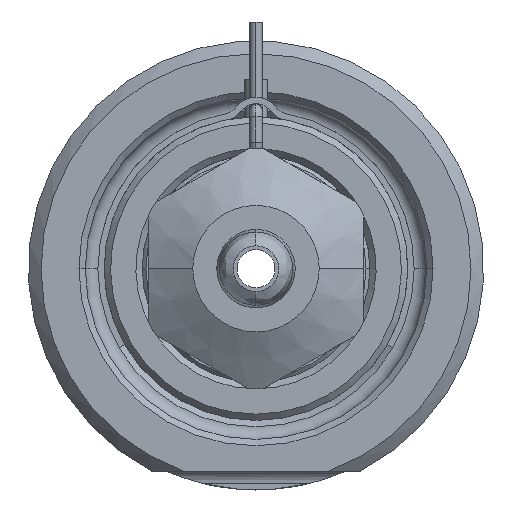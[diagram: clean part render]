
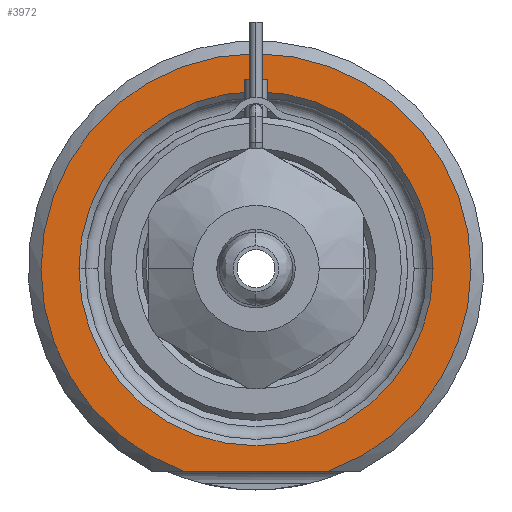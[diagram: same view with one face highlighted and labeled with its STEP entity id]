
A CAD part, front view. The second image highlights one B-rep face of the part: STEP entity #3972.
In plain terms, the highlighted planar face has unit normal (0, -1, 0).
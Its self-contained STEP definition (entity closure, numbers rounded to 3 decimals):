
#640=CARTESIAN_POINT('',(0.,0.,0.));
#641=DIRECTION('',(0.,-1.,0.));
#642=DIRECTION('',(0.338,0.,-0.941));
#643=AXIS2_PLACEMENT_3D('',#640,#641,#642);
#664=DIRECTION('',(1.,0.,0.));
#665=VECTOR('',#664,11.489);
#666=CARTESIAN_POINT('',(-5.745,0.,-16.));
#667=LINE('',#666,#665);
#668=CARTESIAN_POINT('',(0.,0.,0.));
#669=DIRECTION('',(0.,1.,0.));
#670=DIRECTION('',(-1.,0.,0.));
#671=AXIS2_PLACEMENT_3D('',#668,#669,#670);
#673=CARTESIAN_POINT('',(0.,0.,0.));
#674=DIRECTION('',(0.,1.,0.));
#675=DIRECTION('',(1.,0.,0.));
#676=AXIS2_PLACEMENT_3D('',#673,#674,#675);
#2467=CARTESIAN_POINT('',(-14.,0.,0.));
#2468=CARTESIAN_POINT('',(14.,0.,0.));
#2469=VERTEX_POINT('',#2467);
#2470=VERTEX_POINT('',#2468);
#2507=CARTESIAN_POINT('',(-5.745,0.,-16.));
#2508=CARTESIAN_POINT('',(5.745,0.,-16.));
#2509=VERTEX_POINT('',#2507);
#2510=VERTEX_POINT('',#2508);
#3957=CARTESIAN_POINT('',(0.,0.,0.));
#3958=DIRECTION('',(0.,-1.,0.));
#3959=DIRECTION('',(1.,0.,0.));
#3960=AXIS2_PLACEMENT_3D('',#3957,#3958,#3959);
#3961=PLANE('',#3960);
#3962=ORIENTED_EDGE('',*,*,#3889,.F.);
#3963=ORIENTED_EDGE('',*,*,#3949,.F.);
#3964=EDGE_LOOP('',(#3962,#3963));
#3965=FACE_OUTER_BOUND('',#3964,.F.);
#3967=ORIENTED_EDGE('',*,*,#3966,.F.);
#3969=ORIENTED_EDGE('',*,*,#3968,.F.);
#3970=EDGE_LOOP('',(#3967,#3969));
#3971=FACE_BOUND('',#3970,.F.);
#3972=ADVANCED_FACE('',(#3965,#3971),#3961,.T.);
#644=CIRCLE('',#643,17.);
#672=CIRCLE('',#671,14.);
#677=CIRCLE('',#676,14.);
#3889=EDGE_CURVE('',#2509,#2510,#667,.T.);
#3949=EDGE_CURVE('',#2510,#2509,#644,.T.);
#3966=EDGE_CURVE('',#2469,#2470,#672,.T.);
#3968=EDGE_CURVE('',#2470,#2469,#677,.T.);
